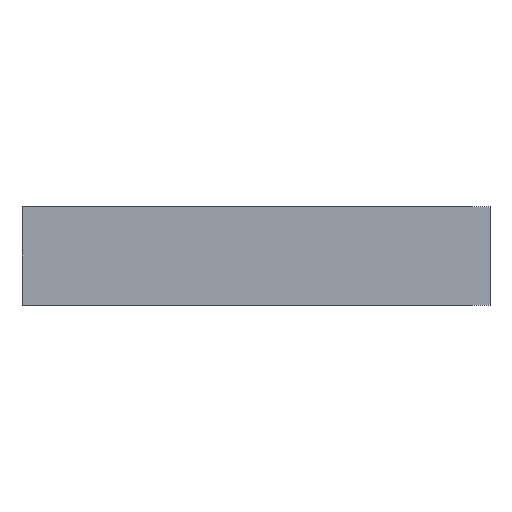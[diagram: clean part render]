
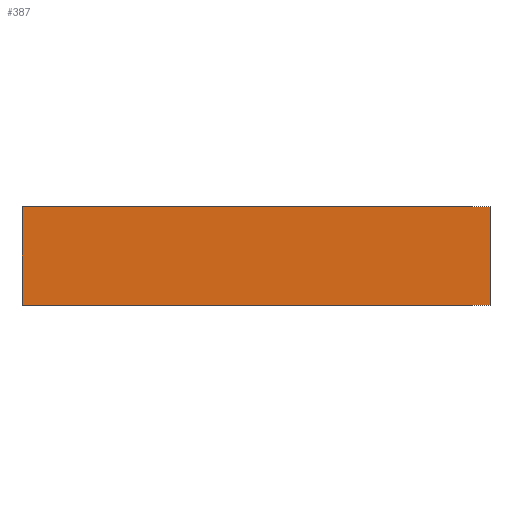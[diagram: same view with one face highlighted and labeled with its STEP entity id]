
A CAD part, front view. The second image highlights one B-rep face of the part: STEP entity #387.
In plain terms, the highlighted planar face has unit normal (0, -1, 0).
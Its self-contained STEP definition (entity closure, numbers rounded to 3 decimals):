
#37 = EDGE_LOOP ( 'NONE', ( #916, #914, #911, #910 ) ) ;
#288 = DIRECTION ( 'NONE',  ( 0., 0., -1. ) ) ;
#289 = CARTESIAN_POINT ( 'NONE',  ( -154., 0., 65. ) ) ;
#291 = DIRECTION ( 'NONE',  ( 0., 0., -1. ) ) ;
#292 = CARTESIAN_POINT ( 'NONE',  ( 154., 0., 65. ) ) ;
#312 = DIRECTION ( 'NONE',  ( 1., 0., 0. ) ) ;
#313 = CARTESIAN_POINT ( 'NONE',  ( -154., 0., 0. ) ) ;
#344 = DIRECTION ( 'NONE',  ( 1., 0., 0. ) ) ;
#346 = CARTESIAN_POINT ( 'NONE',  ( -154., 0., 65. ) ) ;
#387 = ADVANCED_FACE ( 'NONE', ( #863 ), #526, .F. ) ;
#410 = VERTEX_POINT ( 'NONE', #455 ) ;
#416 = VERTEX_POINT ( 'NONE', #584 ) ;
#419 = VERTEX_POINT ( 'NONE', #538 ) ;
#420 = VERTEX_POINT ( 'NONE', #539 ) ;
#455 = CARTESIAN_POINT ( 'NONE',  ( -154., 0., 0. ) ) ;
#516 = DIRECTION ( 'NONE',  ( -1., 0., 0. ) ) ;
#517 = DIRECTION ( 'NONE',  ( 0., 1., 0. ) ) ;
#523 = CARTESIAN_POINT ( 'NONE',  ( -154., 0., 65. ) ) ;
#526 = PLANE ( 'NONE',  #894 ) ;
#538 = CARTESIAN_POINT ( 'NONE',  ( -154., 0., 65. ) ) ;
#539 = CARTESIAN_POINT ( 'NONE',  ( 154., 0., 0. ) ) ;
#584 = CARTESIAN_POINT ( 'NONE',  ( 154., 0., 65. ) ) ;
#640 = EDGE_CURVE ( 'NONE', #419, #416, #772, .T. ) ;
#654 = EDGE_CURVE ( 'NONE', #410, #420, #749, .T. ) ;
#664 = EDGE_CURVE ( 'NONE', #416, #420, #689, .T. ) ;
#665 = EDGE_CURVE ( 'NONE', #419, #410, #696, .T. ) ;
#689 = LINE ( 'NONE', #292, #697 ) ;
#696 = LINE ( 'NONE', #289, #881 ) ;
#697 = VECTOR ( 'NONE', #291, 1000. ) ;
#748 = VECTOR ( 'NONE', #312, 1000. ) ;
#749 = LINE ( 'NONE', #313, #748 ) ;
#771 = VECTOR ( 'NONE', #344, 1000. ) ;
#772 = LINE ( 'NONE', #346, #771 ) ;
#863 = FACE_OUTER_BOUND ( 'NONE', #37, .T. ) ;
#881 = VECTOR ( 'NONE', #288, 1000. ) ;
#894 = AXIS2_PLACEMENT_3D ( 'NONE', #523, #517, #516 ) ;
#910 = ORIENTED_EDGE ( 'NONE', *, *, #665, .T. ) ;
#911 = ORIENTED_EDGE ( 'NONE', *, *, #640, .F. ) ;
#914 = ORIENTED_EDGE ( 'NONE', *, *, #664, .F. ) ;
#916 = ORIENTED_EDGE ( 'NONE', *, *, #654, .T. ) ;
